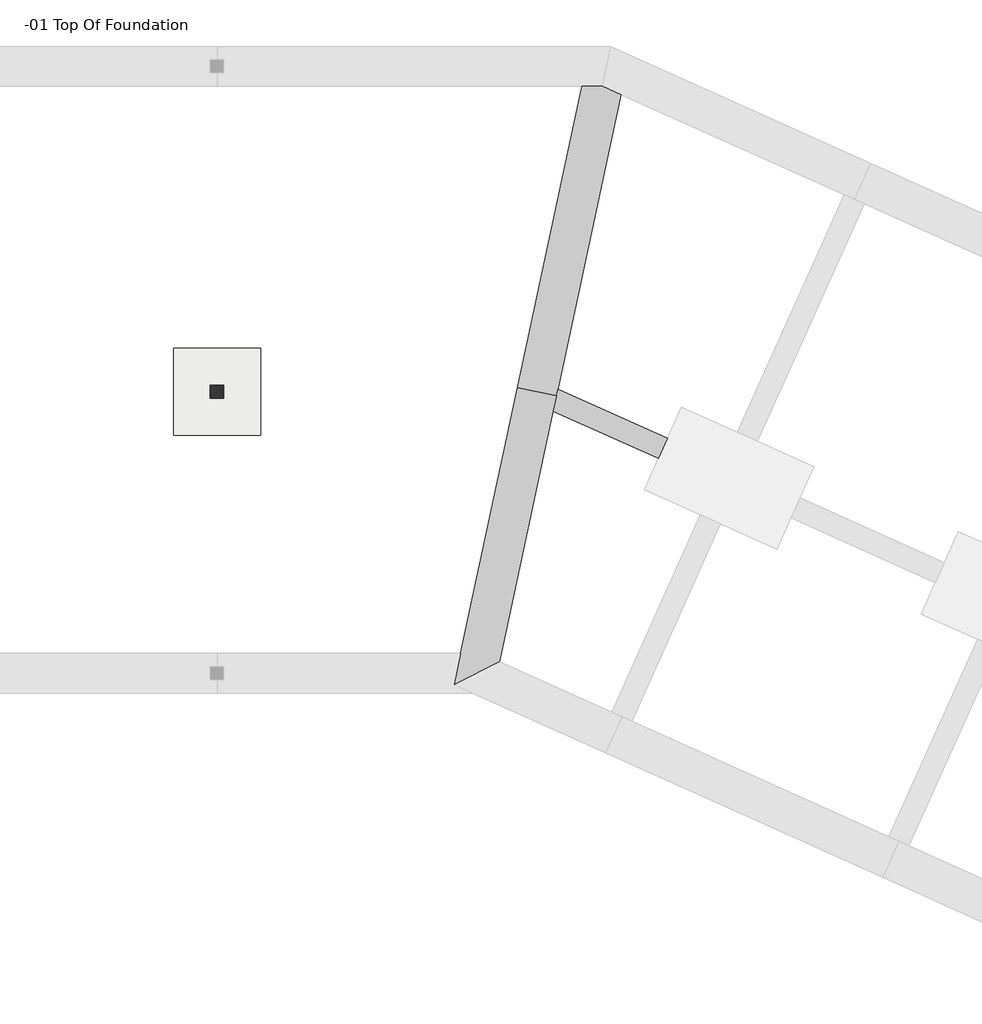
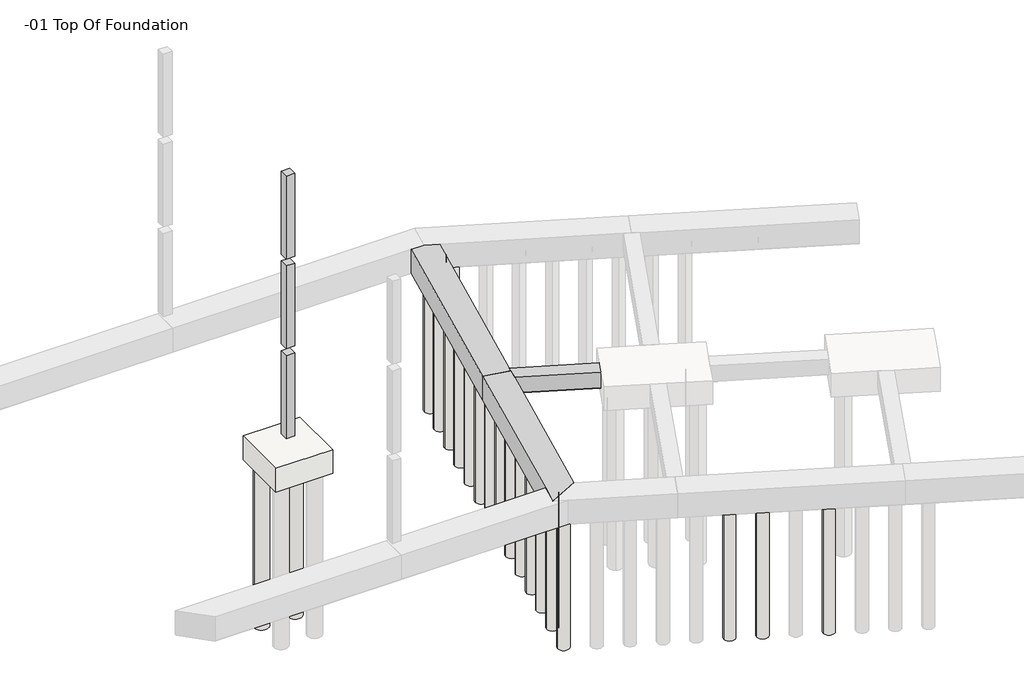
# One storey, part 2 of 6: 21 slabs, 3 beams, 1 column.
"""IFC4 building model written with IfcOpenShell, lengths in millimetres."""

from ifc_helpers import new_model, si_unit, point, frame, frame_2d, origin, origin_with_axes, place, context, project, spatial, polyline, circle_curve, trimmed, segment, composite_curve, outline, extrude, faceted_brep, element, save
from ifc_brep_helpers import plane_surface, cylinder_surface, revolved_surface, advanced_brep

model = new_model("IFC4")

# Units and contexts
model_context = context("Model", 3, world=origin())
ifc_project = project(units=[si_unit("LENGTHUNIT", "METRE", prefix="MILLI")], contexts=[model_context])

# Site, building, storey
site = spatial("IfcSite", under=ifc_project)
building = spatial("IfcBuilding", under=site)
storey = spatial("IfcBuildingStorey", under=building, Name="-01 Top Of Foundation", Elevation=-304.8)

# Beams
placement = place(None, origin())
element("IfcBeam", 1, ObjectType="Ring Beam : 12 x 24", at=placement, inside=storey, context=model_context, shape_type="Brep", body=[
    faceted_brep([(29873.354996, -7443.2933987, -304.8), (29839.4542887, -7601.4966994, -304.8), (29764.4978532, -7951.2933987, -304.8), (32188.6819449, -9040.2317073, -304.8), (32396.8380425, -8576.8365854, -304.8), (29764.4978532, -7951.2933987, -889.0), (32188.6819449, -9040.2317073, -889.0), (29769.9407103, -7925.8933987, -914.4), (32199.0897498, -9017.0619512, -914.4), (29867.9121389, -7468.6933987, -914.4), (32386.4302376, -8600.0063415, -914.4), (29873.354996, -7443.2933987, -889.0), (32396.8380425, -8576.8365854, -889.0)], [[[0, 1, 2, 3, 4]], [[2, 5, 6, 3]], [[5, 7, 8, 6]], [[7, 9, 10, 8]], [[9, 11, 12, 10]], [[11, 0, 4, 12]], [[11, 9, 7, 5, 2, 1, 0]], [[4, 3, 6, 8, 10, 12]]]),
])
element("IfcBeam", 2, ObjectType="Ring Beam : 16 x 32", at=placement, inside=storey, context=model_context, shape_type="AdvancedBrep", body=[
    advanced_brep(
    [(28945.3517613, -7409.9033006, -1193.8), (28945.3517613, -7409.9033006, -304.8), (30435.2167543, -457.2, -304.8), (30435.2167543, -457.2, -1193.8), (29839.4542887, -7601.4966994, -304.8), (29873.354996, -7443.2933987, -304.8), (31329.3192817, -648.7933987, -304.8), (30902.7958822, -457.2, -304.8), (28970.1879426, -7415.2253395, -1219.2), (30466.6362297, -431.8, -1219.2), (29814.6181074, -7596.1746605, -1219.2), (30908.2387393, -431.8, -1219.2), (31311.0663945, -612.749321, -1219.2), (30584.6857566, -993.4472527, -1219.2), (30991.0857566, -993.4472527, -1219.2), (30371.8042024, -1986.8945054, -1219.2), (30778.2042024, -1986.8945054, -1219.2), (30158.9226483, -2980.3417581, -1219.2), (30565.3226483, -2980.3417581, -1219.2), (29946.0410941, -3973.7890108, -1219.2), (30352.4410941, -3973.7890108, -1219.2), (29733.15954, -4967.2362635, -1219.2), (30139.55954, -4967.2362635, -1219.2), (29520.2779858, -5960.6835162, -1219.2), (29926.6779858, -5960.6835162, -1219.2), (29307.3964317, -6954.1307689, -1219.2), (29713.7964317, -6954.1307689, -1219.2), (31329.3192817, -648.7933987, -1193.8), (29839.4542887, -7601.4966994, -1193.8), (30902.7958822, -457.2, -1193.8), (30991.0857566, -993.4472527, -1066.8), (30584.6857566, -993.4472527, -1066.8), (30778.2042024, -1986.8945054, -1066.8), (30371.8042024, -1986.8945054, -1066.8), (30565.3226483, -2980.3417581, -1066.8), (30158.9226483, -2980.3417581, -1066.8), (30352.4410941, -3973.7890108, -1066.8), (29946.0410941, -3973.7890108, -1066.8), (30139.55954, -4967.2362635, -1066.8), (29733.15954, -4967.2362635, -1066.8), (29926.6779858, -5960.6835162, -1066.8), (29520.2779858, -5960.6835162, -1066.8), (29713.7964317, -6954.1307689, -1066.8), (29307.3964317, -6954.1307689, -1066.8)],
    [
        (0, 1),
        (1, 2),
        (2, 3),
        (3, 0),
        (1, 4),
        (4, 5),
        (5, 6),
        (6, 7),
        (7, 2),
        (8, 0),
        (3, 9),
        (9, 8),
        (10, 8),
        (9, 11),
        (11, 12),
        (12, 10),
        (13, 14, circle_curve(frame((30787.8857566, -993.4472527, -1219.2), z_axis=(0.0, 0.0, 1.0), x_axis=(1.0, 0.0, 0.0)), 203.2)),
        (14, 13, circle_curve(frame((30787.8857566, -993.4472527, -1219.2), z_axis=(0.0, 0.0, 1.0), x_axis=(1.0, 0.0, 0.0)), 203.2)),
        (15, 16, circle_curve(frame((30575.0042024, -1986.8945054, -1219.2), z_axis=(0.0, 0.0, 1.0), x_axis=(1.0, 0.0, 0.0)), 203.2)),
        (16, 15, circle_curve(frame((30575.0042024, -1986.8945054, -1219.2), z_axis=(0.0, 0.0, 1.0), x_axis=(1.0, 0.0, 0.0)), 203.2)),
        (17, 18, circle_curve(frame((30362.1226483, -2980.3417581, -1219.2), z_axis=(0.0, 0.0, 1.0), x_axis=(1.0, 0.0, 0.0)), 203.2)),
        (18, 17, circle_curve(frame((30362.1226483, -2980.3417581, -1219.2), z_axis=(0.0, 0.0, 1.0), x_axis=(1.0, 0.0, 0.0)), 203.2)),
        (19, 20, circle_curve(frame((30149.2410941, -3973.7890108, -1219.2), z_axis=(0.0, 0.0, 1.0), x_axis=(1.0, 0.0, 0.0)), 203.2)),
        (20, 19, circle_curve(frame((30149.2410941, -3973.7890108, -1219.2), z_axis=(0.0, 0.0, 1.0), x_axis=(1.0, 0.0, 0.0)), 203.2)),
        (21, 22, circle_curve(frame((29936.35954, -4967.2362635, -1219.2), z_axis=(0.0, 0.0, 1.0), x_axis=(1.0, 0.0, 0.0)), 203.2)),
        (22, 21, circle_curve(frame((29936.35954, -4967.2362635, -1219.2), z_axis=(0.0, 0.0, 1.0), x_axis=(1.0, 0.0, 0.0)), 203.2)),
        (23, 24, circle_curve(frame((29723.4779858, -5960.6835162, -1219.2), z_axis=(0.0, 0.0, 1.0), x_axis=(1.0, 0.0, 0.0)), 203.2)),
        (24, 23, circle_curve(frame((29723.4779858, -5960.6835162, -1219.2), z_axis=(0.0, 0.0, 1.0), x_axis=(1.0, 0.0, 0.0)), 203.2)),
        (25, 26, circle_curve(frame((29510.5964317, -6954.1307689, -1219.2), z_axis=(0.0, 0.0, 1.0), x_axis=(1.0, 0.0, 0.0)), 203.2)),
        (26, 25, circle_curve(frame((29510.5964317, -6954.1307689, -1219.2), z_axis=(0.0, 0.0, 1.0), x_axis=(1.0, 0.0, 0.0)), 203.2)),
        (12, 27),
        (27, 28),
        (28, 10),
        (27, 6),
        (4, 28),
        (11, 29),
        (29, 27),
        (29, 7),
        (30, 31, circle_curve(frame((30787.8857566, -993.4472527, -1066.8), z_axis=(0.0, 0.0, -1.0), x_axis=(1.0, 0.0, 0.0)), 203.2)),
        (31, 30, circle_curve(frame((30787.8857566, -993.4472527, -1066.8), z_axis=(0.0, 0.0, -1.0), x_axis=(1.0, 0.0, 0.0)), 203.2)),
        (30, 14),
        (13, 31),
        (32, 33, circle_curve(frame((30575.0042024, -1986.8945054, -1066.8), z_axis=(0.0, 0.0, -1.0), x_axis=(1.0, 0.0, 0.0)), 203.2)),
        (33, 32, circle_curve(frame((30575.0042024, -1986.8945054, -1066.8), z_axis=(0.0, 0.0, -1.0), x_axis=(1.0, 0.0, 0.0)), 203.2)),
        (32, 16),
        (15, 33),
        (34, 35, circle_curve(frame((30362.1226483, -2980.3417581, -1066.8), z_axis=(0.0, 0.0, -1.0), x_axis=(1.0, 0.0, 0.0)), 203.2)),
        (35, 34, circle_curve(frame((30362.1226483, -2980.3417581, -1066.8), z_axis=(0.0, 0.0, -1.0), x_axis=(1.0, 0.0, 0.0)), 203.2)),
        (34, 18),
        (17, 35),
        (36, 37, circle_curve(frame((30149.2410941, -3973.7890108, -1066.8), z_axis=(0.0, 0.0, -1.0), x_axis=(1.0, 0.0, 0.0)), 203.2)),
        (37, 36, circle_curve(frame((30149.2410941, -3973.7890108, -1066.8), z_axis=(0.0, 0.0, -1.0), x_axis=(1.0, 0.0, 0.0)), 203.2)),
        (36, 20),
        (19, 37),
        (38, 39, circle_curve(frame((29936.35954, -4967.2362635, -1066.8), z_axis=(0.0, 0.0, -1.0), x_axis=(1.0, 0.0, 0.0)), 203.2)),
        (39, 38, circle_curve(frame((29936.35954, -4967.2362635, -1066.8), z_axis=(0.0, 0.0, -1.0), x_axis=(1.0, 0.0, 0.0)), 203.2)),
        (38, 22),
        (21, 39),
        (40, 41, circle_curve(frame((29723.4779858, -5960.6835162, -1066.8), z_axis=(0.0, 0.0, -1.0), x_axis=(1.0, 0.0, 0.0)), 203.2)),
        (41, 40, circle_curve(frame((29723.4779858, -5960.6835162, -1066.8), z_axis=(0.0, 0.0, -1.0), x_axis=(1.0, 0.0, 0.0)), 203.2)),
        (40, 24),
        (23, 41),
        (42, 43, circle_curve(frame((29510.5964317, -6954.1307689, -1066.8), z_axis=(0.0, 0.0, -1.0), x_axis=(1.0, 0.0, 0.0)), 203.2)),
        (43, 42, circle_curve(frame((29510.5964317, -6954.1307689, -1066.8), z_axis=(0.0, 0.0, -1.0), x_axis=(1.0, 0.0, 0.0)), 203.2)),
        (42, 26),
        (25, 43),
        (3, 29),
    ],
    [
        plane_surface(frame((29000.0518051, -7154.6364295, -304.8), z_axis=(-0.9778024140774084, 0.20952908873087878, 0.0), x_axis=(0.20952908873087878, 0.9778024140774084, 0.0))),
        plane_surface(frame((29894.1543326, -7346.2298282, -304.8), z_axis=(0.0, 0.0, 1.0000000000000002), x_axis=(0.20952908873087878, 0.9778024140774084, 0.0))),
        plane_surface(frame((29000.0518051, -7154.6364295, -1193.8), z_axis=(-0.6914107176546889, 0.14815943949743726, -0.7071067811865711), x_axis=(0.20952908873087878, 0.9778024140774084, 0.0))),
        plane_surface(frame((29024.8879864, -7159.9584683, -1219.2), z_axis=(0.0, 0.0, -1.0000000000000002), x_axis=(0.20952908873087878, 0.9778024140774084, 0.0))),
        plane_surface(frame((29869.3181512, -7340.9077894, -1219.2), z_axis=(0.691410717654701, -0.14815943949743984, -0.7071067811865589), x_axis=(0.20952908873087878, 0.9778024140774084, 0.0))),
        plane_surface(frame((29894.1543326, -7346.2298282, -1193.8), z_axis=(0.9778024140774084, -0.20952908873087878, 0.0), x_axis=(0.20952908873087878, 0.9778024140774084, 0.0))),
        plane_surface(frame((31351.3119647, -630.8275451, -1219.2), z_axis=(0.2897413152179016, 0.645019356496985, 0.7071067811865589), x_axis=(0.9121951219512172, -0.40975609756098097, 0.0))),
        plane_surface(frame((31340.9041598, -653.9973012, -1193.8), z_axis=(0.40975609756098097, 0.9121951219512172, 0.0), x_axis=(0.9121951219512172, -0.40975609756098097, 0.0))),
        plane_surface(frame((29392.403025, -7505.7, -304.8), z_axis=(-0.20952908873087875, -0.9778024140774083, 0.0), x_axis=(0.9778024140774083, -0.20952908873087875, 0.0))),
        plane_surface(frame((30991.0857566, -993.4472527, -1066.8), z_axis=(0.0, 0.0, -1.0), x_axis=(0.0, 1.0, 0.0))),
        revolved_surface(polyline([(30991.0857566, -993.4472527, -1066.8000000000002), (30991.0857566, -993.4472527, -1219.1999999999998)]), (30787.8857566, -993.4472527, -6096.0), (0.0, 0.0, 1.0)),
        plane_surface(frame((30778.2042024, -1986.8945054, -1066.8), z_axis=(0.0, 0.0, -1.0), x_axis=(0.0, 1.0, 0.0))),
        revolved_surface(polyline([(30778.2042024, -1986.8945054, -1066.8000000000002), (30778.2042024, -1986.8945054, -1219.1999999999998)]), (30575.0042024, -1986.8945054, -6096.0), (0.0, 0.0, 1.0)),
        plane_surface(frame((30565.3226483, -2980.3417581, -1066.8), z_axis=(0.0, 0.0, -1.0), x_axis=(0.0, 1.0, 0.0))),
        revolved_surface(polyline([(30565.3226483, -2980.3417581, -1066.8000000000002), (30565.3226483, -2980.3417581, -1219.1999999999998)]), (30362.1226483, -2980.3417581, -6096.0), (0.0, 0.0, 1.0)),
        plane_surface(frame((30352.4410941, -3973.7890108, -1066.8), z_axis=(0.0, 0.0, -1.0), x_axis=(0.0, 1.0, 0.0))),
        revolved_surface(polyline([(30352.441094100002, -3973.7890108, -1066.8000000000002), (30352.441094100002, -3973.7890108, -1219.1999999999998)]), (30149.2410941, -3973.7890108, -6096.0), (0.0, 0.0, 1.0)),
        plane_surface(frame((30139.55954, -4967.2362635, -1066.8), z_axis=(0.0, 0.0, -1.0), x_axis=(0.0, 1.0, 0.0))),
        revolved_surface(polyline([(30139.559540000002, -4967.2362635, -1066.8000000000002), (30139.559540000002, -4967.2362635, -1219.1999999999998)]), (29936.35954, -4967.2362635, -6096.0), (0.0, 0.0, 1.0)),
        plane_surface(frame((29926.6779858, -5960.6835162, -1066.8), z_axis=(0.0, 0.0, -1.0), x_axis=(0.0, 1.0, 0.0))),
        revolved_surface(polyline([(29926.6779858, -5960.6835162, -1066.8000000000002), (29926.6779858, -5960.6835162, -1219.1999999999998)]), (29723.4779858, -5960.6835162, -6096.0), (0.0, 0.0, 1.0)),
        plane_surface(frame((29713.7964317, -6954.1307689, -1066.8), z_axis=(0.0, 0.0, -1.0), x_axis=(0.0, 1.0, 0.0))),
        revolved_surface(polyline([(29713.7964317, -6954.1307689, -1066.8000000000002), (29713.7964317, -6954.1307689, -1219.1999999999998)]), (29510.5964317, -6954.1307689, -6096.0), (0.0, 0.0, 1.0)),
        plane_surface(frame((22021.8000006, -444.5, -1206.5), z_axis=(0.0, 0.7071067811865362, 0.7071067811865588), x_axis=(0.0, -0.7071067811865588, 0.7071067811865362))),
        plane_surface(frame((22021.8000006, -457.2, -749.3), z_axis=(0.0, 1.0, 0.0), x_axis=(0.0, 0.0, 1.0))),
    ],
    [
        (0, [[1, 2, 3, 4]]),
        (1, [[5, 6, 7, 8, 9, -2]]),
        (2, [[10, -4, 11, 12]]),
        (3, [[13, -12, 14, 15, 16], [17, 18], [19, 20], [21, 22], [23, 24], [25, 26], [27, 28], [29, 30]]),
        (4, [[31, 32, 33, -16]]),
        (5, [[34, -7, -6, 35, -32]]),
        (6, [[-31, -15, 36, 37]]),
        (7, [[-34, -37, 38, -8]]),
        (8, [[-5, -1, -10, -13, -33, -35]]),
        (9, [[39, 40]]),
        (10, [[-39, 41, -17, 42]]),
        (10, [[-40, -42, -18, -41]]),
        (11, [[43, 44]]),
        (12, [[-43, 45, -19, 46]]),
        (12, [[-44, -46, -20, -45]]),
        (13, [[47, 48]]),
        (14, [[-47, 49, -21, 50]]),
        (14, [[-48, -50, -22, -49]]),
        (15, [[51, 52]]),
        (16, [[-51, 53, -23, 54]]),
        (16, [[-52, -54, -24, -53]]),
        (17, [[55, 56]]),
        (18, [[-55, 57, -25, 58]]),
        (18, [[-56, -58, -26, -57]]),
        (19, [[59, 60]]),
        (20, [[-59, 61, -27, 62]]),
        (20, [[-60, -62, -28, -61]]),
        (21, [[63, 64]]),
        (22, [[-63, 65, -29, 66]]),
        (22, [[-64, -66, -30, -65]]),
        (23, [[67, -36, -14, -11]]),
        (24, [[-67, -3, -9, -38]]),
    ],
),
])
element("IfcBeam", 3, ObjectType="Ring Beam : 16 x 32", at=placement, inside=storey, context=model_context, shape_type="AdvancedBrep", body=[
    advanced_brep(
    [(27477.2581969, -14261.0066013, -304.8), (27632.1453257, -13538.2, -304.8), (28945.3517613, -7409.9033006, -304.8), (28945.3517613, -7409.9033006, -1193.8), (27632.1453257, -13538.2, -1193.8), (27477.2581969, -14261.0066013, -1193.8), (28526.2478532, -13729.7933987, -304.8), (29764.4978532, -7951.2933987, -304.8), (29839.4542887, -7601.4966994, -304.8), (28970.1879426, -7415.2253395, -1219.2), (27652.6790868, -13563.6, -1219.2), (27506.3967985, -14246.250679, -1219.2), (29814.6181074, -7596.1746605, -1219.2), (28497.1092516, -13744.549321, -1219.2), (28185.4716207, -13902.3640554, -1219.2), (27801.6212595, -13995.4, -1219.2), (27822.9184202, -14085.9626691, -1219.2), (29094.5148775, -7947.5780216, -1219.2), (29500.9148775, -7947.5780216, -1219.2), (28881.6333234, -8941.0252743, -1219.2), (29288.0333234, -8941.0252743, -1219.2), (28668.7517692, -9934.472527, -1219.2), (29075.1517692, -9934.472527, -1219.2), (28455.8702151, -10927.9197797, -1219.2), (28862.2702151, -10927.9197797, -1219.2), (28242.9886609, -11921.3670324, -1219.2), (28649.3886609, -11921.3670324, -1219.2), (28034.6176562, -12872.2379743, -1219.2), (28431.9965573, -12957.390596, -1219.2), (29839.4542887, -7601.4966994, -1193.8), (28526.2478532, -13729.7933987, -1193.8), (27822.9184202, -14085.9626691, -1066.8), (28185.4716207, -13902.3640554, -1066.8), (27801.6212595, -13995.4, -1066.8), (29500.9148775, -7947.5780216, -1066.8), (29094.5148775, -7947.5780216, -1066.8), (29288.0333234, -8941.0252743, -1066.8), (28881.6333234, -8941.0252743, -1066.8), (29075.1517692, -9934.472527, -1066.8), (28668.7517692, -9934.472527, -1066.8), (28862.2702151, -10927.9197797, -1066.8), (28455.8702151, -10927.9197797, -1066.8), (28649.3886609, -11921.3670324, -1066.8), (28242.9886609, -11921.3670324, -1066.8), (28431.9965573, -12957.390596, -1066.8), (28034.6176562, -12872.2379743, -1066.8)],
    [
        (0, 1),
        (1, 2),
        (2, 3),
        (3, 4),
        (4, 5),
        (5, 0),
        (0, 6),
        (6, 7),
        (7, 8),
        (8, 2),
        (3, 9),
        (9, 10),
        (10, 11),
        (11, 5),
        (9, 12),
        (12, 13),
        (13, 14),
        (14, 15, circle_curve(frame((28004.8212595, -13995.4, -1219.2), z_axis=(0.0, 0.0, 1.0), x_axis=(1.0, 0.0, 0.0)), 203.2)),
        (15, 16, circle_curve(frame((28004.8212595, -13995.4, -1219.2), z_axis=(0.0, 0.0, 1.0), x_axis=(1.0, 0.0, 0.0)), 203.2)),
        (16, 11),
        (17, 18, circle_curve(frame((29297.7148775, -7947.5780216, -1219.2), z_axis=(0.0, 0.0, 1.0), x_axis=(1.0, 0.0, 0.0)), 203.2)),
        (18, 17, circle_curve(frame((29297.7148775, -7947.5780216, -1219.2), z_axis=(0.0, 0.0, 1.0), x_axis=(1.0, 0.0, 0.0)), 203.2)),
        (19, 20, circle_curve(frame((29084.8333234, -8941.0252743, -1219.2), z_axis=(0.0, 0.0, 1.0), x_axis=(1.0, 0.0, 0.0)), 203.2)),
        (20, 19, circle_curve(frame((29084.8333234, -8941.0252743, -1219.2), z_axis=(0.0, 0.0, 1.0), x_axis=(1.0, 0.0, 0.0)), 203.2)),
        (21, 22, circle_curve(frame((28871.9517692, -9934.472527, -1219.2), z_axis=(0.0, 0.0, 1.0), x_axis=(1.0, 0.0, 0.0)), 203.2)),
        (22, 21, circle_curve(frame((28871.9517692, -9934.472527, -1219.2), z_axis=(0.0, 0.0, 1.0), x_axis=(1.0, 0.0, 0.0)), 203.2)),
        (23, 24, circle_curve(frame((28659.0702151, -10927.9197797, -1219.2), z_axis=(0.0, 0.0, 1.0), x_axis=(1.0, 0.0, 0.0)), 203.2)),
        (24, 23, circle_curve(frame((28659.0702151, -10927.9197797, -1219.2), z_axis=(0.0, 0.0, 1.0), x_axis=(1.0, 0.0, 0.0)), 203.2)),
        (25, 26, circle_curve(frame((28446.1886609, -11921.3670324, -1219.2), z_axis=(0.0, 0.0, 1.0), x_axis=(1.0, 0.0, 0.0)), 203.2)),
        (26, 25, circle_curve(frame((28446.1886609, -11921.3670324, -1219.2), z_axis=(0.0, 0.0, 1.0), x_axis=(1.0, 0.0, 0.0)), 203.2)),
        (27, 28, circle_curve(frame((28233.3071068, -12914.8142851, -1219.2), z_axis=(0.0, 0.0, 1.0), x_axis=(0.9778024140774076, -0.20952908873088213, 0.0)), 203.2)),
        (28, 27, circle_curve(frame((28233.3071068, -12914.8142851, -1219.2), z_axis=(0.0, 0.0, 1.0), x_axis=(0.9778024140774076, -0.20952908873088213, 0.0)), 203.2)),
        (12, 29),
        (29, 30),
        (30, 13),
        (6, 30),
        (29, 8),
        (16, 31),
        (31, 32),
        (32, 14),
        (33, 32, circle_curve(frame((28004.8212595, -13995.4, -1066.8), z_axis=(0.0, 0.0, -1.0), x_axis=(1.0, 0.0, 0.0)), 203.2)),
        (31, 33, circle_curve(frame((28004.8212595, -13995.4, -1066.8), z_axis=(0.0, 0.0, -1.0), x_axis=(1.0, 0.0, 0.0)), 203.2)),
        (15, 33),
        (34, 35, circle_curve(frame((29297.7148775, -7947.5780216, -1066.8), z_axis=(0.0, 0.0, -1.0), x_axis=(1.0, 0.0, 0.0)), 203.2)),
        (35, 34, circle_curve(frame((29297.7148775, -7947.5780216, -1066.8), z_axis=(0.0, 0.0, -1.0), x_axis=(1.0, 0.0, 0.0)), 203.2)),
        (34, 18),
        (17, 35),
        (36, 37, circle_curve(frame((29084.8333234, -8941.0252743, -1066.8), z_axis=(0.0, 0.0, -1.0), x_axis=(1.0, 0.0, 0.0)), 203.2)),
        (37, 36, circle_curve(frame((29084.8333234, -8941.0252743, -1066.8), z_axis=(0.0, 0.0, -1.0), x_axis=(1.0, 0.0, 0.0)), 203.2)),
        (36, 20),
        (19, 37),
        (38, 39, circle_curve(frame((28871.9517692, -9934.472527, -1066.8), z_axis=(0.0, 0.0, -1.0), x_axis=(1.0, 0.0, 0.0)), 203.2)),
        (39, 38, circle_curve(frame((28871.9517692, -9934.472527, -1066.8), z_axis=(0.0, 0.0, -1.0), x_axis=(1.0, 0.0, 0.0)), 203.2)),
        (38, 22),
        (21, 39),
        (40, 41, circle_curve(frame((28659.0702151, -10927.9197797, -1066.8), z_axis=(0.0, 0.0, -1.0), x_axis=(1.0, 0.0, 0.0)), 203.2)),
        (41, 40, circle_curve(frame((28659.0702151, -10927.9197797, -1066.8), z_axis=(0.0, 0.0, -1.0), x_axis=(1.0, 0.0, 0.0)), 203.2)),
        (40, 24),
        (23, 41),
        (42, 43, circle_curve(frame((28446.1886609, -11921.3670324, -1066.8), z_axis=(0.0, 0.0, -1.0), x_axis=(1.0, 0.0, 0.0)), 203.2)),
        (43, 42, circle_curve(frame((28446.1886609, -11921.3670324, -1066.8), z_axis=(0.0, 0.0, -1.0), x_axis=(1.0, 0.0, 0.0)), 203.2)),
        (42, 26),
        (25, 43),
        (44, 45, circle_curve(frame((28233.3071068, -12914.8142851, -1066.8), z_axis=(0.0, 0.0, -1.0), x_axis=(0.9778024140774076, -0.20952908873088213, 0.0)), 203.2)),
        (45, 44, circle_curve(frame((28233.3071068, -12914.8142851, -1066.8), z_axis=(0.0, 0.0, -1.0), x_axis=(0.9778024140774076, -0.20952908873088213, 0.0)), 203.2)),
        (44, 28),
        (27, 45),
    ],
    [
        plane_surface(frame((27651.0330246, -13450.0574051, -304.8), z_axis=(-0.9778024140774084, 0.20952908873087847, 0.0), x_axis=(0.20952908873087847, 0.9778024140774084, 0.0))),
        plane_surface(frame((28545.1355521, -13641.6508038, -304.8), z_axis=(0.0, 0.0, 1.0), x_axis=(0.20952908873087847, 0.9778024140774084, 0.0))),
        plane_surface(frame((27651.0330246, -13450.0574051, -1193.8), z_axis=(-0.691410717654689, 0.14815943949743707, -0.7071067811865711), x_axis=(0.20952908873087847, 0.9778024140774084, 0.0))),
        plane_surface(frame((27675.869206, -13455.3794439, -1219.2), z_axis=(0.0, 0.0, -1.0), x_axis=(0.20952908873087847, 0.9778024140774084, 0.0))),
        plane_surface(frame((28520.2993708, -13636.328765, -1219.2), z_axis=(0.691410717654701, -0.14815943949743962, -0.7071067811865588), x_axis=(0.20952908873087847, 0.9778024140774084, 0.0))),
        plane_surface(frame((28545.1355521, -13641.6508038, -1193.8), z_axis=(0.9778024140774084, -0.20952908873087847, 0.0), x_axis=(0.20952908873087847, 0.9778024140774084, 0.0))),
        plane_surface(frame((29392.403025, -7505.7, -304.8), z_axis=(0.20952908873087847, 0.9778024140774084, 0.0), x_axis=(0.9778024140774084, -0.20952908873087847, 0.0))),
        plane_surface(frame((28526.2478532, -13729.7933987, -304.8), z_axis=(0.4517787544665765, -0.8921300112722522, 0.0), x_axis=(0.8921300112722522, 0.4517787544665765, 0.0))),
        plane_surface(frame((28208.0212595, -13995.4, -1066.8), z_axis=(0.0, 0.0, -1.0), x_axis=(0.0, 1.0, 0.0))),
        revolved_surface(polyline([(28208.0212595, -13995.4, -1066.8000000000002), (28208.0212595, -13995.4, -1219.1999999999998)]), (28004.8212595, -13995.4, -6096.0), (0.0, 0.0, 1.0)),
        plane_surface(frame((29500.9148775, -7947.5780216, -1066.8), z_axis=(0.0, 0.0, -1.0), x_axis=(0.0, 1.0, 0.0))),
        revolved_surface(polyline([(29500.9148775, -7947.5780216, -1066.8000000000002), (29500.9148775, -7947.5780216, -1219.1999999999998)]), (29297.7148775, -7947.5780216, -6096.0), (0.0, 0.0, 1.0)),
        plane_surface(frame((29288.0333234, -8941.0252743, -1066.8), z_axis=(0.0, 0.0, -1.0), x_axis=(0.0, 1.0, 0.0))),
        revolved_surface(polyline([(29288.0333234, -8941.0252743, -1066.8000000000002), (29288.0333234, -8941.0252743, -1219.1999999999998)]), (29084.8333234, -8941.0252743, -6096.0), (0.0, 0.0, 1.0)),
        plane_surface(frame((29075.1517692, -9934.472527, -1066.8), z_axis=(0.0, 0.0, -1.0), x_axis=(0.0, 1.0, 0.0))),
        revolved_surface(polyline([(29075.1517692, -9934.472527, -1066.8000000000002), (29075.1517692, -9934.472527, -1219.1999999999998)]), (28871.9517692, -9934.472527, -6096.0), (0.0, 0.0, 1.0)),
        plane_surface(frame((28862.2702151, -10927.9197797, -1066.8), z_axis=(0.0, 0.0, -1.0), x_axis=(0.0, 1.0, 0.0))),
        revolved_surface(polyline([(28862.2702151, -10927.9197797, -1066.8000000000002), (28862.2702151, -10927.9197797, -1219.1999999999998)]), (28659.0702151, -10927.9197797, -6096.0), (0.0, 0.0, 1.0)),
        plane_surface(frame((28649.3886609, -11921.3670324, -1066.8), z_axis=(0.0, 0.0, -1.0), x_axis=(0.0, 1.0, 0.0))),
        revolved_surface(polyline([(28649.3886609, -11921.3670324, -1066.8000000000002), (28649.3886609, -11921.3670324, -1219.1999999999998)]), (28446.1886609, -11921.3670324, -6096.0), (0.0, 0.0, 1.0)),
        plane_surface(frame((28431.9965573, -12957.390596, -1066.8), z_axis=(0.0, 0.0, -1.0), x_axis=(0.20952908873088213, 0.9778024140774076, 0.0))),
        revolved_surface(polyline([(28431.996557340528, -12957.390595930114, -1066.8000000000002), (28431.996557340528, -12957.390595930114, -1219.1999999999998)]), (28233.3071068, -12914.8142851, -6096.0), (0.0, 0.0, 1.0)),
    ],
    [
        (0, [[1, 2, 3, 4, 5, 6]]),
        (1, [[-2, -1, 7, 8, 9, 10]]),
        (2, [[-5, -4, 11, 12, 13, 14]]),
        (3, [[-13, -12, 15, 16, 17, 18, 19, 20], [21, 22], [23, 24], [25, 26], [27, 28], [29, 30], [31, 32]]),
        (4, [[-16, 33, 34, 35]]),
        (5, [[-9, -8, 36, -34, 37]]),
        (6, [[-37, -33, -15, -11, -3, -10]]),
        (7, [[-7, -6, -14, -20, 38, 39, 40, -17, -35, -36]]),
        (8, [[41, -39, 42]]),
        (9, [[-42, -38, -19, 43]]),
        (9, [[-41, -43, -18, -40]]),
        (10, [[44, 45]]),
        (11, [[-44, 46, -21, 47]]),
        (11, [[-45, -47, -22, -46]]),
        (12, [[48, 49]]),
        (13, [[-48, 50, -23, 51]]),
        (13, [[-49, -51, -24, -50]]),
        (14, [[52, 53]]),
        (15, [[-52, 54, -25, 55]]),
        (15, [[-53, -55, -26, -54]]),
        (16, [[56, 57]]),
        (17, [[-56, 58, -27, 59]]),
        (17, [[-57, -59, -28, -58]]),
        (18, [[60, 61]]),
        (19, [[-60, 62, -29, 63]]),
        (19, [[-61, -63, -30, -62]]),
        (20, [[64, 65]]),
        (21, [[-64, 66, -31, 67]]),
        (21, [[-65, -67, -32, -66]]),
    ],
),
])

# Column
element("IfcColumn", 4, ObjectType="Concrete-Rectangular-Column : 12 x 12", at=placement, inside=storey, context=model_context, shape_type="SweptSolid", body=[
    extrude(outline(polyline([(22161.5, -7353.3), (22161.5, -7658.1), (21856.7, -7658.1), (21856.7, -7353.3), (22161.5, -7353.3)])), frame((0.0, 0.0, 6705.6), z_axis=(0.0, 0.0, 1.0), x_axis=(1.0, 0.0, 0.0)), (0.0, 0.0, 1.0), 3098.8),
    extrude(outline(polyline([(22161.5, -7353.3), (22161.5, -7658.1), (21856.7, -7658.1), (21856.7, -7353.3), (22161.5, -7353.3)])), origin_with_axes(), (0.0, 0.0, 1.0), 3098.8),
    extrude(outline(polyline([(22161.5, -7353.3), (22161.5, -7658.1), (21856.7, -7658.1), (21856.7, -7353.3), (22161.5, -7353.3)])), frame((0.0, 0.0, 3352.8), z_axis=(0.0, 0.0, 1.0), x_axis=(1.0, 0.0, 0.0)), (0.0, 0.0, 1.0), 3098.8),
])

# Slabs
element("IfcSlab", 5, ObjectType="Pile Cap-4 Pile : 79\"x79\"x35\"", at=placement, inside=storey, context=model_context, shape_type="SweptSolid", body=[
    extrude(outline(polyline([(23012.4, -6502.4), (23012.4, -8509.0), (21005.8, -8509.0), (21005.8, -6502.4), (23012.4, -6502.4)])), frame((0.0, 0.0, -1193.8), z_axis=(0.0, 0.0, 1.0), x_axis=(1.0, 0.0, 0.0)), (0.0, 0.0, 1.0), 889.0),
])
element("IfcSlab", 6, ObjectType="Pile-Steel Pipe : 20\" Diameter", at=placement, inside=storey, context=model_context, shape_type="SweptSolid", body=[
    extrude(outline(composite_curve([segment(trimmed(circle_curve(frame_2d((21412.2, -6908.8)), 254.0), [point((21158.2, -6908.8))], [point((21666.2, -6908.8))], False, "CARTESIAN"), True, "CONTINUOUS"), segment(trimmed(circle_curve(frame_2d((21412.2, -6908.8)), 254.0), [point((21666.2, -6908.8))], [point((21158.2, -6908.8))], False, "CARTESIAN"), True, "CONTINUOUS")], self_intersect=False)), frame((0.0, 0.0, -7289.8), z_axis=(0.0, 0.0, 1.0), x_axis=(1.0, 0.0, 0.0)), (0.0, 0.0, 1.0), 6096.0),
])
element("IfcSlab", 7, ObjectType="Pile-Steel Pipe : 20\" Diameter", at=placement, inside=storey, context=model_context, shape_type="SweptSolid", body=[
    extrude(outline(composite_curve([segment(trimmed(circle_curve(frame_2d((22606.0, -6908.8)), 254.0), [point((22352.0, -6908.8))], [point((22860.0, -6908.8))], False, "CARTESIAN"), True, "CONTINUOUS"), segment(trimmed(circle_curve(frame_2d((22606.0, -6908.8)), 254.0), [point((22860.0, -6908.8))], [point((22352.0, -6908.8))], False, "CARTESIAN"), True, "CONTINUOUS")], self_intersect=False)), frame((0.0, 0.0, -7289.8), z_axis=(0.0, 0.0, 1.0), x_axis=(1.0, 0.0, 0.0)), (0.0, 0.0, 1.0), 6096.0),
])
element("IfcSlab", 8, ObjectType="Round In Situ Concrete Pile : 16\" Diameter", at=placement, inside=storey, context=model_context, shape_type="AdvancedBrep", body=[
    advanced_brep(
    [(27801.6212595, -13995.4, -1066.8), (27822.9184202, -14085.9626691, -1066.8), (28185.4716207, -13902.3640554, -1066.8), (27801.6212595, -13995.4, -6096.0), (28208.0212595, -13995.4, -6096.0), (28208.0212595, -13995.4, -1219.2), (27822.9184202, -14085.9626691, -1219.2), (28185.4716207, -13902.3640554, -1219.2)],
    [
        (0, 1, circle_curve(frame((28004.8212595, -13995.4, -1066.8), z_axis=(0.0, 0.0, 1.0), x_axis=(1.0, 0.0, 0.0)), 203.2)),
        (1, 2),
        (2, 0, circle_curve(frame((28004.8212595, -13995.4, -1066.8), z_axis=(0.0, 0.0, 1.0), x_axis=(1.0, 0.0, 0.0)), 203.2)),
        (3, 4, circle_curve(frame((28004.8212595, -13995.4, -6096.0), z_axis=(0.0, 0.0, -1.0), x_axis=(1.0, 0.0, 0.0)), 203.2)),
        (4, 3, circle_curve(frame((28004.8212595, -13995.4, -6096.0), z_axis=(0.0, 0.0, -1.0), x_axis=(1.0, 0.0, 0.0)), 203.2)),
        (4, 5),
        (5, 6, circle_curve(frame((28004.8212595, -13995.4, -1219.2), z_axis=(0.0, 0.0, -1.0), x_axis=(1.0, 0.0, 0.0)), 203.2)),
        (6, 1),
        (0, 3),
        (2, 7),
        (7, 5, circle_curve(frame((28004.8212595, -13995.4, -1219.2), z_axis=(0.0, 0.0, -1.0), x_axis=(1.0, 0.0, 0.0)), 203.2)),
        (7, 6),
    ],
    [
        plane_surface(frame((28208.0212595, -13995.4, -1066.8), z_axis=(0.0, 0.0, 1.0), x_axis=(0.0, 1.0, 0.0))),
        plane_surface(frame((28208.0212595, -13995.4, -6096.0), z_axis=(0.0, 0.0, -1.0), x_axis=(0.0, -1.0, 0.0))),
        cylinder_surface(frame((28004.8212595, -13995.4, -6096.0), z_axis=(0.0, 0.0, 1.0), x_axis=(1.0, 0.0, 0.0)), 203.2),
        plane_surface(frame((28598.068568, -13789.90003, -1219.2), z_axis=(0.0, 0.0, 1.0000000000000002), x_axis=(0.9121951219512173, -0.40975609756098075, 0.0))),
        plane_surface(frame((28526.2478532, -13729.7933987, -304.8), z_axis=(0.451778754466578, -0.8921300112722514, 0.0), x_axis=(0.8921300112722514, 0.451778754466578, 0.0))),
    ],
    [
        (0, [[1, 2, 3]]),
        (1, [[4, 5]]),
        (2, [[-5, 6, 7, 8, -1, 9]]),
        (2, [[-4, -9, -3, 10, 11, -6]]),
        (3, [[12, -7, -11]]),
        (4, [[-12, -10, -2, -8]]),
    ],
),
])
element("IfcSlab", 9, ObjectType="Round In Situ Concrete Pile : 16\" Diameter", at=placement, inside=storey, context=model_context, shape_type="SweptSolid", body=[
    extrude(outline(composite_curve([segment(trimmed(circle_curve(frame_2d((32659.5101218, -16086.5634146)), 203.2), [point((32456.3101218, -16086.5634146))], [point((32862.7101218, -16086.5634146))], False, "CARTESIAN"), True, "CONTINUOUS"), segment(trimmed(circle_curve(frame_2d((32659.5101218, -16086.5634146)), 203.2), [point((32862.7101218, -16086.5634146))], [point((32456.3101218, -16086.5634146))], False, "CARTESIAN"), True, "CONTINUOUS")], self_intersect=False)), frame((0.0, 0.0, -6096.0), z_axis=(0.0, 0.0, 1.0), x_axis=(1.0, 0.0, 0.0)), (0.0, 0.0, 1.0), 5029.2),
])
element("IfcSlab", 10, ObjectType="Round In Situ Concrete Pile : 16\" Diameter", at=placement, inside=storey, context=model_context, shape_type="SweptSolid", body=[
    extrude(outline(composite_curve([segment(trimmed(circle_curve(frame_2d((33590.4478943, -16504.7960976)), 203.2), [point((33387.2478943, -16504.7960976))], [point((33793.6478943, -16504.7960976))], False, "CARTESIAN"), True, "CONTINUOUS"), segment(trimmed(circle_curve(frame_2d((33590.4478943, -16504.7960976)), 203.2), [point((33793.6478943, -16504.7960976))], [point((33387.2478943, -16504.7960976))], False, "CARTESIAN"), True, "CONTINUOUS")], self_intersect=False)), frame((0.0, 0.0, -6096.0), z_axis=(0.0, 0.0, 1.0), x_axis=(1.0, 0.0, 0.0)), (0.0, 0.0, 1.0), 5029.2),
])
element("IfcSlab", 11, ObjectType="Round In Situ Concrete Pile : 16\" Diameter", at=placement, inside=storey, context=model_context, shape_type="SweptSolid", body=[
    extrude(outline(composite_curve([segment(trimmed(circle_curve(frame_2d((35452.3234392, -17341.2614634)), 203.2), [point((35249.1234392, -17341.2614634))], [point((35655.5234392, -17341.2614634))], False, "CARTESIAN"), True, "CONTINUOUS"), segment(trimmed(circle_curve(frame_2d((35452.3234392, -17341.2614634)), 203.2), [point((35655.5234392, -17341.2614634))], [point((35249.1234392, -17341.2614634))], False, "CARTESIAN"), True, "CONTINUOUS")], self_intersect=False)), frame((0.0, 0.0, -6096.0), z_axis=(0.0, 0.0, 1.0), x_axis=(1.0, 0.0, 0.0)), (0.0, 0.0, 1.0), 5029.2),
])
element("IfcSlab", 12, ObjectType="Round In Situ Concrete Pile : 16\" Diameter", at=placement, inside=storey, context=model_context, shape_type="SweptSolid", body=[
    extrude(outline(composite_curve([segment(trimmed(circle_curve(frame_2d((30787.8857566, -993.4472527)), 203.2), [point((30584.6857566, -993.4472527))], [point((30991.0857566, -993.4472527))], False, "CARTESIAN"), True, "CONTINUOUS"), segment(trimmed(circle_curve(frame_2d((30787.8857566, -993.4472527)), 203.2), [point((30991.0857566, -993.4472527))], [point((30584.6857566, -993.4472527))], False, "CARTESIAN"), True, "CONTINUOUS")], self_intersect=False)), frame((0.0, 0.0, -6096.0), z_axis=(0.0, 0.0, 1.0), x_axis=(1.0, 0.0, 0.0)), (0.0, 0.0, 1.0), 5029.2),
])
element("IfcSlab", 13, ObjectType="Round In Situ Concrete Pile : 16\" Diameter", at=placement, inside=storey, context=model_context, shape_type="SweptSolid", body=[
    extrude(outline(composite_curve([segment(trimmed(circle_curve(frame_2d((30575.0042024, -1986.8945054)), 203.2), [point((30371.8042024, -1986.8945054))], [point((30778.2042024, -1986.8945054))], False, "CARTESIAN"), True, "CONTINUOUS"), segment(trimmed(circle_curve(frame_2d((30575.0042024, -1986.8945054)), 203.2), [point((30778.2042024, -1986.8945054))], [point((30371.8042024, -1986.8945054))], False, "CARTESIAN"), True, "CONTINUOUS")], self_intersect=False)), frame((0.0, 0.0, -6096.0), z_axis=(0.0, 0.0, 1.0), x_axis=(1.0, 0.0, 0.0)), (0.0, 0.0, 1.0), 5029.2),
])
element("IfcSlab", 14, ObjectType="Round In Situ Concrete Pile : 16\" Diameter", at=placement, inside=storey, context=model_context, shape_type="SweptSolid", body=[
    extrude(outline(composite_curve([segment(trimmed(circle_curve(frame_2d((30362.1226483, -2980.3417581)), 203.2), [point((30158.9226483, -2980.3417581))], [point((30565.3226483, -2980.3417581))], False, "CARTESIAN"), True, "CONTINUOUS"), segment(trimmed(circle_curve(frame_2d((30362.1226483, -2980.3417581)), 203.2), [point((30565.3226483, -2980.3417581))], [point((30158.9226483, -2980.3417581))], False, "CARTESIAN"), True, "CONTINUOUS")], self_intersect=False)), frame((0.0, 0.0, -6096.0), z_axis=(0.0, 0.0, 1.0), x_axis=(1.0, 0.0, 0.0)), (0.0, 0.0, 1.0), 5029.2),
])
element("IfcSlab", 15, ObjectType="Round In Situ Concrete Pile : 16\" Diameter", at=placement, inside=storey, context=model_context, shape_type="SweptSolid", body=[
    extrude(outline(composite_curve([segment(trimmed(circle_curve(frame_2d((30149.2410941, -3973.7890108)), 203.2), [point((29946.0410941, -3973.7890108))], [point((30352.4410941, -3973.7890108))], False, "CARTESIAN"), True, "CONTINUOUS"), segment(trimmed(circle_curve(frame_2d((30149.2410941, -3973.7890108)), 203.2), [point((30352.4410941, -3973.7890108))], [point((29946.0410941, -3973.7890108))], False, "CARTESIAN"), True, "CONTINUOUS")], self_intersect=False)), frame((0.0, 0.0, -6096.0), z_axis=(0.0, 0.0, 1.0), x_axis=(1.0, 0.0, 0.0)), (0.0, 0.0, 1.0), 5029.2),
])
element("IfcSlab", 16, ObjectType="Round In Situ Concrete Pile : 16\" Diameter", at=placement, inside=storey, context=model_context, shape_type="SweptSolid", body=[
    extrude(outline(composite_curve([segment(trimmed(circle_curve(frame_2d((29936.35954, -4967.2362635)), 203.2), [point((29733.15954, -4967.2362635))], [point((30139.55954, -4967.2362635))], False, "CARTESIAN"), True, "CONTINUOUS"), segment(trimmed(circle_curve(frame_2d((29936.35954, -4967.2362635)), 203.2), [point((30139.55954, -4967.2362635))], [point((29733.15954, -4967.2362635))], False, "CARTESIAN"), True, "CONTINUOUS")], self_intersect=False)), frame((0.0, 0.0, -6096.0), z_axis=(0.0, 0.0, 1.0), x_axis=(1.0, 0.0, 0.0)), (0.0, 0.0, 1.0), 5029.2),
])
element("IfcSlab", 17, ObjectType="Round In Situ Concrete Pile : 16\" Diameter", at=placement, inside=storey, context=model_context, shape_type="SweptSolid", body=[
    extrude(outline(composite_curve([segment(trimmed(circle_curve(frame_2d((29723.4779858, -5960.6835162)), 203.2), [point((29520.2779858, -5960.6835162))], [point((29926.6779858, -5960.6835162))], False, "CARTESIAN"), True, "CONTINUOUS"), segment(trimmed(circle_curve(frame_2d((29723.4779858, -5960.6835162)), 203.2), [point((29926.6779858, -5960.6835162))], [point((29520.2779858, -5960.6835162))], False, "CARTESIAN"), True, "CONTINUOUS")], self_intersect=False)), frame((0.0, 0.0, -6096.0), z_axis=(0.0, 0.0, 1.0), x_axis=(1.0, 0.0, 0.0)), (0.0, 0.0, 1.0), 5029.2),
])
element("IfcSlab", 18, ObjectType="Round In Situ Concrete Pile : 16\" Diameter", at=placement, inside=storey, context=model_context, shape_type="SweptSolid", body=[
    extrude(outline(composite_curve([segment(trimmed(circle_curve(frame_2d((29510.5964317, -6954.1307689)), 203.2), [point((29307.3964317, -6954.1307689))], [point((29713.7964317, -6954.1307689))], False, "CARTESIAN"), True, "CONTINUOUS"), segment(trimmed(circle_curve(frame_2d((29510.5964317, -6954.1307689)), 203.2), [point((29713.7964317, -6954.1307689))], [point((29307.3964317, -6954.1307689))], False, "CARTESIAN"), True, "CONTINUOUS")], self_intersect=False)), frame((0.0, 0.0, -6096.0), z_axis=(0.0, 0.0, 1.0), x_axis=(1.0, 0.0, 0.0)), (0.0, 0.0, 1.0), 5029.2),
])
element("IfcSlab", 19, ObjectType="Round In Situ Concrete Pile : 16\" Diameter", at=placement, inside=storey, context=model_context, shape_type="SweptSolid", body=[
    extrude(outline(composite_curve([segment(trimmed(circle_curve(frame_2d((29297.7148775, -7947.5780216)), 203.2), [point((29094.5148775, -7947.5780216))], [point((29500.9148775, -7947.5780216))], False, "CARTESIAN"), True, "CONTINUOUS"), segment(trimmed(circle_curve(frame_2d((29297.7148775, -7947.5780216)), 203.2), [point((29500.9148775, -7947.5780216))], [point((29094.5148775, -7947.5780216))], False, "CARTESIAN"), True, "CONTINUOUS")], self_intersect=False)), frame((0.0, 0.0, -6096.0), z_axis=(0.0, 0.0, 1.0), x_axis=(1.0, 0.0, 0.0)), (0.0, 0.0, 1.0), 5029.2),
])
element("IfcSlab", 20, ObjectType="Round In Situ Concrete Pile : 16\" Diameter", at=placement, inside=storey, context=model_context, shape_type="SweptSolid", body=[
    extrude(outline(composite_curve([segment(trimmed(circle_curve(frame_2d((29084.8333234, -8941.0252743)), 203.2), [point((28881.6333234, -8941.0252743))], [point((29288.0333234, -8941.0252743))], False, "CARTESIAN"), True, "CONTINUOUS"), segment(trimmed(circle_curve(frame_2d((29084.8333234, -8941.0252743)), 203.2), [point((29288.0333234, -8941.0252743))], [point((28881.6333234, -8941.0252743))], False, "CARTESIAN"), True, "CONTINUOUS")], self_intersect=False)), frame((0.0, 0.0, -6096.0), z_axis=(0.0, 0.0, 1.0), x_axis=(1.0, 0.0, 0.0)), (0.0, 0.0, 1.0), 5029.2),
])
element("IfcSlab", 21, ObjectType="Round In Situ Concrete Pile : 16\" Diameter", at=placement, inside=storey, context=model_context, shape_type="SweptSolid", body=[
    extrude(outline(composite_curve([segment(trimmed(circle_curve(frame_2d((28871.9517692, -9934.472527)), 203.2), [point((28668.7517692, -9934.472527))], [point((29075.1517692, -9934.472527))], False, "CARTESIAN"), True, "CONTINUOUS"), segment(trimmed(circle_curve(frame_2d((28871.9517692, -9934.472527)), 203.2), [point((29075.1517692, -9934.472527))], [point((28668.7517692, -9934.472527))], False, "CARTESIAN"), True, "CONTINUOUS")], self_intersect=False)), frame((0.0, 0.0, -6096.0), z_axis=(0.0, 0.0, 1.0), x_axis=(1.0, 0.0, 0.0)), (0.0, 0.0, 1.0), 5029.2),
])
element("IfcSlab", 22, ObjectType="Round In Situ Concrete Pile : 16\" Diameter", at=placement, inside=storey, context=model_context, shape_type="SweptSolid", body=[
    extrude(outline(composite_curve([segment(trimmed(circle_curve(frame_2d((28659.0702151, -10927.9197797)), 203.2), [point((28455.8702151, -10927.9197797))], [point((28862.2702151, -10927.9197797))], False, "CARTESIAN"), True, "CONTINUOUS"), segment(trimmed(circle_curve(frame_2d((28659.0702151, -10927.9197797)), 203.2), [point((28862.2702151, -10927.9197797))], [point((28455.8702151, -10927.9197797))], False, "CARTESIAN"), True, "CONTINUOUS")], self_intersect=False)), frame((0.0, 0.0, -6096.0), z_axis=(0.0, 0.0, 1.0), x_axis=(1.0, 0.0, 0.0)), (0.0, 0.0, 1.0), 5029.2),
])
element("IfcSlab", 23, ObjectType="Round In Situ Concrete Pile : 16\" Diameter", at=placement, inside=storey, context=model_context, shape_type="SweptSolid", body=[
    extrude(outline(composite_curve([segment(trimmed(circle_curve(frame_2d((28446.1886609, -11921.3670324)), 203.2), [point((28242.9886609, -11921.3670324))], [point((28649.3886609, -11921.3670324))], False, "CARTESIAN"), True, "CONTINUOUS"), segment(trimmed(circle_curve(frame_2d((28446.1886609, -11921.3670324)), 203.2), [point((28649.3886609, -11921.3670324))], [point((28242.9886609, -11921.3670324))], False, "CARTESIAN"), True, "CONTINUOUS")], self_intersect=False)), frame((0.0, 0.0, -6096.0), z_axis=(0.0, 0.0, 1.0), x_axis=(1.0, 0.0, 0.0)), (0.0, 0.0, 1.0), 5029.2),
])
element("IfcSlab", 24, ObjectType="Round In Situ Concrete Pile : 16\" Diameter", at=placement, inside=storey, context=model_context, shape_type="SweptSolid", body=[
    extrude(outline(composite_curve([segment(trimmed(circle_curve(frame_2d((28233.3071068, -12914.8142851)), 203.2), [point((28034.6176562, -12872.2379743))], [point((28431.9965573, -12957.390596))], False, "CARTESIAN"), True, "CONTINUOUS"), segment(trimmed(circle_curve(frame_2d((28233.3071068, -12914.8142851)), 203.2), [point((28431.9965573, -12957.390596))], [point((28034.6176562, -12872.2379743))], False, "CARTESIAN"), True, "CONTINUOUS")], self_intersect=False)), frame((0.0, 0.0, -6096.0), z_axis=(0.0, 0.0, 1.0), x_axis=(1.0, 0.0, 0.0)), (0.0, 0.0, 1.0), 5029.2),
])
element("IfcSlab", 25, ObjectType="Round In Situ Concrete Pile : 16\" Diameter", at=placement, inside=storey, context=model_context, shape_type="SweptSolid", body=[
    extrude(outline(composite_curve([segment(trimmed(circle_curve(frame_2d((31927.5575546, -416.3121951)), 203.2), [point((31844.2951156, -601.6702439))], [point((32010.8199937, -230.9541463))], False, "CARTESIAN"), True, "CONTINUOUS"), segment(trimmed(circle_curve(frame_2d((31927.5575546, -416.3121951)), 203.2), [point((32010.8199937, -230.9541463))], [point((31844.2951156, -601.6702439))], False, "CARTESIAN"), True, "CONTINUOUS")], self_intersect=False)), frame((0.0, 0.0, -6096.0), z_axis=(0.0, 0.0, 1.0), x_axis=(1.0, 0.0, 0.0)), (0.0, 0.0, 1.0), 5029.2),
])

save(model, "model.ifc")
